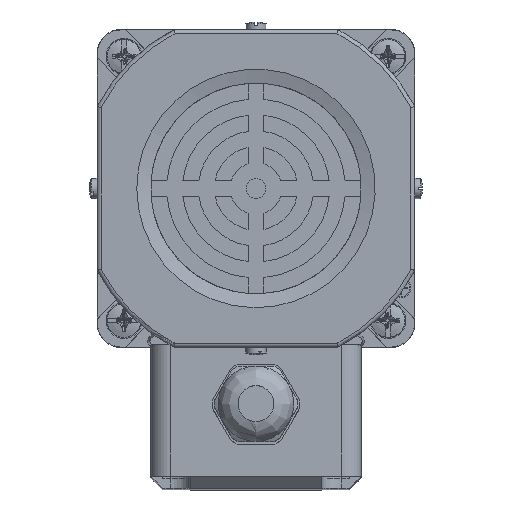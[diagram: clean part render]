
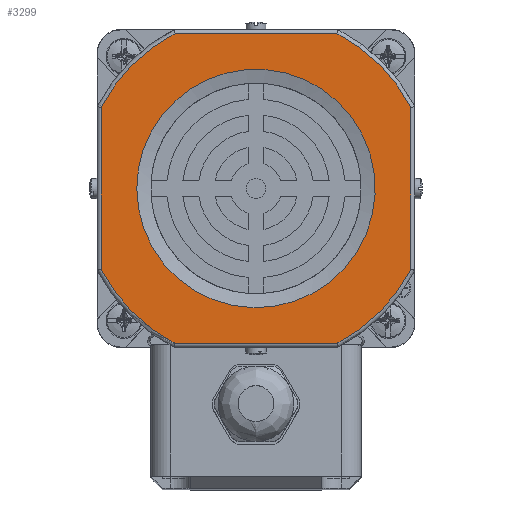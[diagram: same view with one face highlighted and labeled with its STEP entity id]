
A CAD part, left-side view. The second image highlights one B-rep face of the part: STEP entity #3299.
In plain terms, the highlighted planar face has unit normal (-1, 0, 0).
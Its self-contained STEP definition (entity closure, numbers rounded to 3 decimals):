
#3299=ADVANCED_FACE('',(#6327,#6328),#4368,.F.);
#4368=PLANE('',#19178);
#4885=LINE('',#24973,#5662);
#4886=LINE('',#24978,#5663);
#4887=LINE('',#24982,#5664);
#4888=LINE('',#24986,#5665);
#5662=VECTOR('',#21013,1.);
#5663=VECTOR('',#21016,1.);
#5664=VECTOR('',#21019,1.);
#5665=VECTOR('',#21022,1.);
#6327=FACE_BOUND('',#6891,.T.);
#6328=FACE_BOUND('',#6892,.T.);
#6891=EDGE_LOOP('',(#8674));
#6892=EDGE_LOOP('',(#8675,#8676,#8677,#8678,#8679,#8680,#8681,#8682));
#8674=ORIENTED_EDGE('',*,*,#15750,.T.);
#8675=ORIENTED_EDGE('',*,*,#15751,.T.);
#8676=ORIENTED_EDGE('',*,*,#15752,.T.);
#8677=ORIENTED_EDGE('',*,*,#15753,.T.);
#8678=ORIENTED_EDGE('',*,*,#15754,.T.);
#8679=ORIENTED_EDGE('',*,*,#15755,.T.);
#8680=ORIENTED_EDGE('',*,*,#15756,.T.);
#8681=ORIENTED_EDGE('',*,*,#15757,.T.);
#8682=ORIENTED_EDGE('',*,*,#15758,.T.);
#13824=VERTEX_POINT('',#24972);
#13825=VERTEX_POINT('',#24974);
#13826=VERTEX_POINT('',#24975);
#13827=VERTEX_POINT('',#24977);
#13828=VERTEX_POINT('',#24979);
#13829=VERTEX_POINT('',#24981);
#13830=VERTEX_POINT('',#24983);
#13831=VERTEX_POINT('',#24985);
#13832=VERTEX_POINT('',#24987);
#15750=EDGE_CURVE('',#13824,#13824,#18423,.T.);
#15751=EDGE_CURVE('',#13825,#13826,#4885,.T.);
#15752=EDGE_CURVE('',#13826,#13827,#18424,.T.);
#15753=EDGE_CURVE('',#13827,#13828,#4886,.T.);
#15754=EDGE_CURVE('',#13828,#13829,#18425,.T.);
#15755=EDGE_CURVE('',#13829,#13830,#4887,.T.);
#15756=EDGE_CURVE('',#13830,#13831,#18426,.T.);
#15757=EDGE_CURVE('',#13831,#13832,#4888,.T.);
#15758=EDGE_CURVE('',#13832,#13825,#18427,.T.);
#18423=CIRCLE('',#19173,30.);
#18424=CIRCLE('',#19174,44.);
#18425=CIRCLE('',#19175,44.);
#18426=CIRCLE('',#19176,44.);
#18427=CIRCLE('',#19177,44.);
#19173=AXIS2_PLACEMENT_3D('',#24971,#21011,#21012);
#19174=AXIS2_PLACEMENT_3D('',#24976,#21014,#21015);
#19175=AXIS2_PLACEMENT_3D('',#24980,#21017,#21018);
#19176=AXIS2_PLACEMENT_3D('',#24984,#21020,#21021);
#19177=AXIS2_PLACEMENT_3D('',#24988,#21023,#21024);
#19178=AXIS2_PLACEMENT_3D('',#24989,#21025,#21026);
#21011=DIRECTION('',(1.,0.,0.));
#21012=DIRECTION('',(0.,1.,0.));
#21013=DIRECTION('',(0.,1.,0.));
#21014=DIRECTION('',(-1.,0.,0.));
#21015=DIRECTION('',(0.,0.,-1.));
#21016=DIRECTION('',(0.,0.,-1.));
#21017=DIRECTION('',(-1.,0.,0.));
#21018=DIRECTION('',(0.,0.,-1.));
#21019=DIRECTION('',(0.,-1.,0.));
#21020=DIRECTION('',(-1.,0.,0.));
#21021=DIRECTION('',(0.,0.,-1.));
#21022=DIRECTION('',(0.,0.,1.));
#21023=DIRECTION('',(-1.,0.,0.));
#21024=DIRECTION('',(0.,0.,-1.));
#21025=DIRECTION('',(1.,0.,0.));
#21026=DIRECTION('',(0.,0.,-1.));
#24971=CARTESIAN_POINT('',(-102.,40.,40.));
#24972=CARTESIAN_POINT('',(-102.,70.,40.));
#24973=CARTESIAN_POINT('',(-102.,60.616,79.));
#24974=CARTESIAN_POINT('',(-102.,19.628,79.));
#24975=CARTESIAN_POINT('',(-102.,60.372,79.));
#24976=CARTESIAN_POINT('',(-102.,40.,40.));
#24977=CARTESIAN_POINT('',(-102.,79.,60.372));
#24978=CARTESIAN_POINT('',(-102.,79.,19.384));
#24979=CARTESIAN_POINT('',(-102.,79.,19.628));
#24980=CARTESIAN_POINT('',(-102.,40.,40.));
#24981=CARTESIAN_POINT('',(-102.,60.372,1.));
#24982=CARTESIAN_POINT('',(-102.,19.384,1.));
#24983=CARTESIAN_POINT('',(-102.,19.628,1.));
#24984=CARTESIAN_POINT('',(-102.,40.,40.));
#24985=CARTESIAN_POINT('',(-102.,1.,19.628));
#24986=CARTESIAN_POINT('',(-102.,1.,60.616));
#24987=CARTESIAN_POINT('',(-102.,1.,60.372));
#24988=CARTESIAN_POINT('',(-102.,40.,40.));
#24989=CARTESIAN_POINT('',(-102.,40.,40.));
